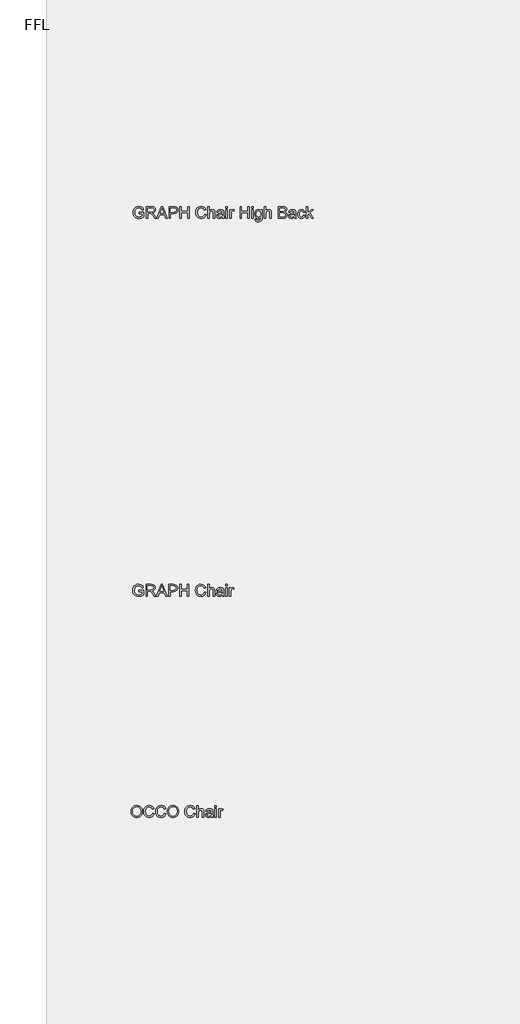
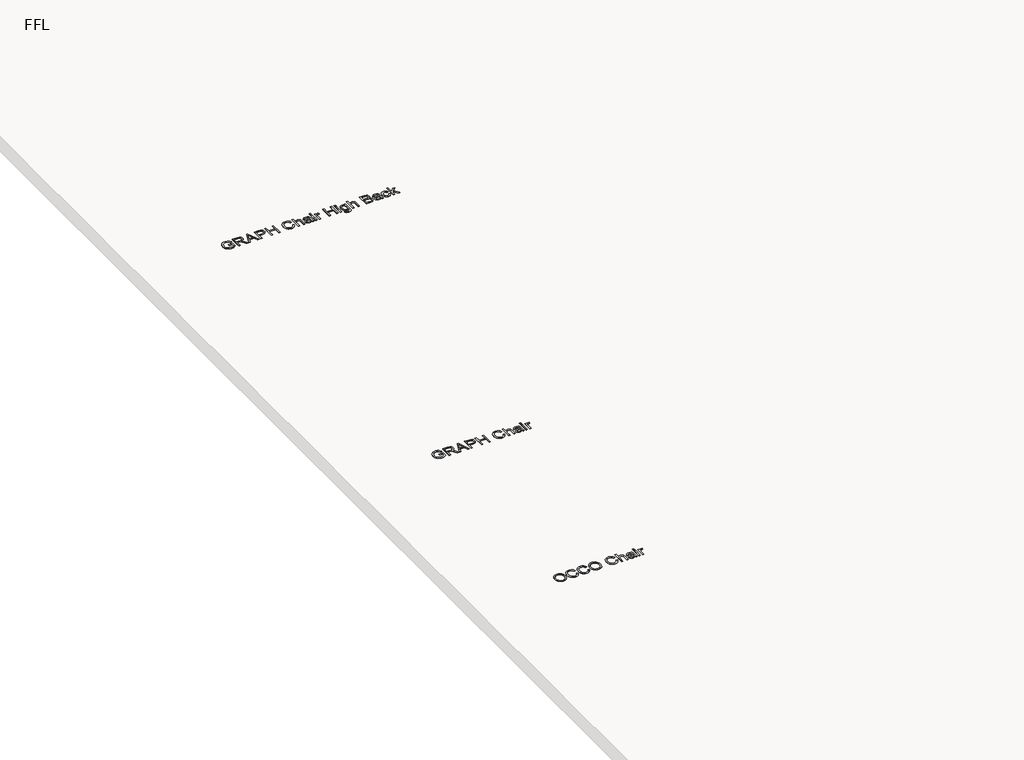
# One storey, part 4 of 5: 3 proxies.
"""IFC4 building model written with IfcOpenShell, lengths in millimetres."""

from ifc_helpers import new_model, si_unit, origin, origin_with_axes, place, context, project, spatial, polyline, outline, extrude, element, save

model = new_model("IFC4")

# Units and contexts
model_context = context("Model", 3, world=origin())
ifc_project = project(units=[si_unit("LENGTHUNIT", "METRE", prefix="MILLI")], contexts=[model_context])

# Site, building, storey
site = spatial("IfcSite", under=ifc_project)
building = spatial("IfcBuilding", under=site)
storey = spatial("IfcBuildingStorey", under=building, Name="FFL", Elevation=0.0)

# Proxies
placement = place(None, origin())
element("IfcBuildingElementProxy", 1, Name="150mm Arial", ObjectType="150mm Arial", at=placement, inside=storey, context=model_context, shape_type="SweptSolid", body=[
    extrude(outline(polyline([(-19111.0911917, 25809.2034841), (-19111.0911917, 25827.6650226), (-19051.0911917, 25827.6650226), (-19051.0911917, 25772.4606957), (-19080.712586, 25755.0448303), (-19112.0286917, 25749.2034841), (-19132.7393287, 25751.5246981), (-19151.4577783, 25758.4883399), (-19167.0076581, 25769.8510202), (-19178.212586, 25785.3693495), (-19184.9869249, 25803.9841332), (-19187.2450379, 25824.6361764), (-19184.9959393, 25845.4369577), (-19178.2486437, 25864.7864168), (-19167.282598, 25881.0168856), (-19152.3772494, 25892.4606957), (-19134.2222013, 25899.2485563), (-19113.5070571, 25901.5111764), (-19084.6248456, 25896.2647822), (-19073.1089201, 25889.9907438), (-19064.3784513, 25881.6614168), (-19053.2185956, 25857.2323303), (-19070.2378263, 25852.4366572), (-19078.6572975, 25869.5099745), (-19093.0443167, 25879.3537245), (-19113.7955187, 25883.049638), (-19137.431336, 25879.065263), (-19153.5130667, 25868.6085322), (-19163.0142687, 25854.3837726), (-19168.7834994, 25825.393388), (-19167.048223, 25807.7386404), (-19161.8423937, 25793.2118976), (-19153.3237638, 25781.9168255), (-19141.650086, 25773.9570899), (-19127.9887278, 25769.2380394), (-19113.5070571, 25767.6650226), (-19088.2486437, 25772.4066091), (-19069.5527302, 25782.5207918), (-19069.5527302, 25809.2034841), (-19111.0911917, 25809.2034841)])), origin_with_axes(), (0.0, 0.0, 1.0), 5.0),
    extrude(outline(polyline([(-19021.0911917, 25751.5111764), (-19021.0911917, 25899.2034841), (-18957.4493648, 25899.2034841), (-18927.900086, 25895.2191091), (-18918.8045331, 25889.7022822), (-18911.7462398, 25881.1205514), (-18907.2164922, 25870.479025), (-18905.7065763, 25858.7828111), (-18908.2080787, 25844.2335322), (-18915.712586, 25832.1722341), (-18928.4454586, 25823.3290851), (-18946.6320571, 25818.4342534), (-18936.1392687, 25810.5376188), (-18921.1753263, 25791.5352149), (-18896.5479225, 25751.5111764), (-18918.0022494, 25751.5111764), (-18937.2209994, 25782.1241572), (-18951.103211, 25802.3885803), (-18960.8568167, 25811.9618976), (-18969.6368648, 25815.4775226), (-18980.3459994, 25816.1265611), (-19002.6296533, 25816.1265611), (-19002.6296533, 25751.5111764), (-19021.0911917, 25751.5111764)]), holes=[polyline([(-19002.6296533, 25834.5880995), (-18961.3075379, 25834.5880995), (-18940.2318167, 25837.2022822), (-18928.2606629, 25845.5676668), (-18924.1681148, 25858.0977149), (-18926.1197374, 25867.1031236), (-18931.9746052, 25874.3597341), (-18942.048223, 25879.1463928), (-18956.6560956, 25880.7419457), (-19002.6296533, 25880.7419457), (-19002.6296533, 25834.5880995)])]), origin_with_axes(), (0.0, 0.0, 1.0), 5.0),
    extrude(outline(polyline([(-18890.5984033, 25751.5111764), (-18831.6440763, 25899.2034841), (-18815.9229225, 25899.2034841), (-18756.9685956, 25751.5111764), (-18776.4758071, 25751.5111764), (-18793.3868648, 25797.6650226), (-18854.2161917, 25797.6650226), (-18871.0911917, 25751.5111764), (-18890.5984033, 25751.5111764)]), holes=[polyline([(-18847.4373456, 25816.1265611), (-18800.1296533, 25816.1265611), (-18813.4349417, 25852.4366572), (-18823.7834994, 25880.7419457), (-18832.978211, 25855.6097341), (-18847.4373456, 25816.1265611)])]), origin_with_axes(), (0.0, 0.0, 1.0), 5.0),
    extrude(outline(polyline([(-18737.2450379, 25751.5111764), (-18737.2450379, 25899.2034841), (-18682.509461, 25899.2034841), (-18660.4421533, 25897.7972341), (-18642.5034513, 25890.8921861), (-18630.8748456, 25876.6133399), (-18626.4758071, 25856.4751188), (-18629.4460595, 25839.0682678), (-18638.3568167, 25824.5640611), (-18655.0199778, 25814.7743976), (-18681.2474417, 25811.5111764), (-18718.7834994, 25811.5111764), (-18718.7834994, 25751.5111764), (-18737.2450379, 25751.5111764)]), holes=[polyline([(-18718.7834994, 25829.9727149), (-18680.165711, 25829.9727149), (-18663.7955187, 25831.6674264), (-18652.978211, 25836.7515611), (-18646.9475619, 25844.9096139), (-18644.9373456, 25855.8260803), (-18649.6789321, 25871.1145418), (-18662.1368648, 25879.4799264), (-18680.5984033, 25880.7419457), (-18718.7834994, 25880.7419457), (-18718.7834994, 25829.9727149)])]), origin_with_axes(), (0.0, 0.0, 1.0), 5.0),
    extrude(outline(polyline([(-18601.0911917, 25751.5111764), (-18601.0911917, 25899.2034841), (-18582.6296533, 25899.2034841), (-18582.6296533, 25839.2034841), (-18504.1681148, 25839.2034841), (-18504.1681148, 25899.2034841), (-18485.7065763, 25899.2034841), (-18485.7065763, 25751.5111764), (-18504.1681148, 25751.5111764), (-18504.1681148, 25820.7419457), (-18582.6296533, 25820.7419457), (-18582.6296533, 25751.5111764), (-18601.0911917, 25751.5111764)])), origin_with_axes(), (0.0, 0.0, 1.0), 5.0),
    extrude(outline(polyline([(-18291.8604225, 25804.0111764), (-18273.398884, 25799.2515611), (-18281.9175138, 25777.7386404), (-18295.2859033, 25762.0219938), (-18312.8459994, 25752.4081115), (-18333.9397494, 25749.2034841), (-18355.3535114, 25751.6283639), (-18372.3592206, 25758.9030034), (-18385.3940763, 25770.7749986), (-18394.8952783, 25786.9919457), (-18400.6960595, 25806.0574505), (-18402.6296533, 25826.4751188), (-18400.4436557, 25848.0105755), (-18393.8856629, 25866.6073303), (-18383.298223, 25881.6749385), (-18369.023884, 25892.6229553), (-18352.0947975, 25899.2891212), (-18333.5431148, 25901.5111764), (-18313.3012278, 25898.6355755), (-18296.5659513, 25890.0087726), (-18283.860122, 25876.1626188), (-18275.7065763, 25857.6289649), (-18294.1681148, 25853.2299264), (-18300.5683552, 25866.6929673), (-18309.3123456, 25875.9282438), (-18320.508259, 25881.2692894), (-18334.2642687, 25883.049638), (-18350.1206388, 25881.0754793), (-18363.1464802, 25875.1530034), (-18373.0307951, 25865.9042053), (-18379.462586, 25853.9510803), (-18384.1681148, 25826.5111764), (-18378.5972013, 25794.7082918), (-18371.4758071, 25782.8317894), (-18361.2534513, 25774.3897822), (-18348.9983432, 25769.3462125), (-18335.7786917, 25767.6650226), (-18320.3685355, 25769.9546861), (-18307.5274898, 25776.8236764), (-18297.8324778, 25788.1998784), (-18291.8604225, 25804.0111764)])), origin_with_axes(), (0.0, 0.0, 1.0), 5.0),
    extrude(outline(polyline([(-18250.321961, 25751.5111764), (-18250.321961, 25899.2034841), (-18231.8604225, 25899.2034841), (-18231.8604225, 25844.9005995), (-18217.4643888, 25857.9354553), (-18199.7330187, 25862.2804072), (-18178.9998456, 25857.5388207), (-18166.415711, 25844.4318495), (-18162.6296533, 25820.1650226), (-18162.6296533, 25751.5111764), (-18181.0911917, 25751.5111764), (-18181.0911917, 25818.2539649), (-18182.5605427, 25829.8104553), (-18186.9685956, 25837.7251188), (-18194.071961, 25842.2954313), (-18203.6272494, 25843.8188688), (-18218.7534513, 25839.7082918), (-18228.8496052, 25828.5664649), (-18231.8604225, 25809.1313688), (-18231.8604225, 25751.5111764), (-18250.321961, 25751.5111764)])), origin_with_axes(), (0.0, 0.0, 1.0), 5.0),
    extrude(outline(polyline([(-18068.0142687, 25765.3573303), (-18085.9169129, 25752.8453111), (-18105.6945571, 25749.2034841), (-18121.1227422, 25751.3939889), (-18132.5034513, 25757.9655034), (-18139.5211797, 25767.9444697), (-18141.8604225, 25780.3573303), (-18138.3267687, 25794.9606957), (-18129.0419129, 25805.5616572), (-18116.1152302, 25811.6193495), (-18100.1416725, 25814.3957918), (-18068.1224417, 25820.7419457), (-18068.0142687, 25824.8525226), (-18069.2853023, 25833.0917053), (-18073.0984033, 25838.4823303), (-18081.6260475, 25842.4847341), (-18093.5070571, 25843.8188688), (-18112.1849417, 25840.2671861), (-18121.0911917, 25827.6650226), (-18139.5527302, 25829.9727149), (-18131.5659513, 25848.0015611), (-18115.4842206, 25858.5664649), (-18091.1272494, 25862.2804072), (-18068.7534513, 25858.9991572), (-18056.1152302, 25850.7599745), (-18050.4541725, 25838.2299264), (-18049.5527302, 25822.0760803), (-18049.5527302, 25799.1073303), (-18048.6152302, 25767.034013), (-18044.9373456, 25751.5111764), (-18063.398884, 25751.5111764), (-18068.0142687, 25765.3573303)]), holes=[polyline([(-18068.0142687, 25802.2804072), (-18097.7979225, 25796.6193495), (-18113.681336, 25793.6265611), (-18120.8748456, 25788.7587726), (-18123.398884, 25781.6554072), (-18117.900086, 25771.6674264), (-18101.7642687, 25767.6650226), (-18083.086384, 25772.0820899), (-18071.0431148, 25782.7731957), (-18068.1224417, 25797.0520418), (-18068.0142687, 25802.2804072)])]), origin_with_axes(), (0.0, 0.0, 1.0), 5.0),
    extrude(outline(polyline([(-18024.1681148, 25751.5111764), (-18024.1681148, 25859.9727149), (-18005.7065763, 25859.9727149), (-18005.7065763, 25751.5111764), (-18024.1681148, 25751.5111764)])), origin_with_axes(), (0.0, 0.0, 1.0), 5.0),
    extrude(outline(polyline([(-18024.1681148, 25880.7419457), (-18024.1681148, 25899.2034841), (-18005.7065763, 25899.2034841), (-18005.7065763, 25880.7419457), (-18024.1681148, 25880.7419457)])), origin_with_axes(), (0.0, 0.0, 1.0), 5.0),
    extrude(outline(polyline([(-17978.0142687, 25751.5111764), (-17978.0142687, 25859.9727149), (-17961.8604225, 25859.9727149), (-17961.8604225, 25843.9270418), (-17950.3940763, 25858.7106957), (-17938.8556148, 25862.2804072), (-17920.321961, 25856.5832918), (-17926.4878263, 25840.0328111), (-17939.4685956, 25843.8188688), (-17949.9072975, 25840.1770418), (-17956.5599417, 25830.080888), (-17959.5527302, 25808.518388), (-17959.5527302, 25751.5111764), (-17978.0142687, 25751.5111764)])), origin_with_axes(), (0.0, 0.0, 1.0), 5.0),
])
element("IfcBuildingElementProxy", 2, Name="150mm Arial", ObjectType="150mm Arial", at=placement, inside=storey, context=model_context, shape_type="SweptSolid", body=[
    extrude(outline(polyline([(-19107.2817262, 30537.9270047), (-19107.2817262, 30556.3885431), (-19047.2817262, 30556.3885431), (-19047.2817262, 30501.1842162), (-19076.9031204, 30483.7683508), (-19108.2192262, 30477.9270047), (-19128.9298632, 30480.2482186), (-19147.6483127, 30487.2118604), (-19163.1981925, 30498.5745407), (-19174.4031204, 30514.09287), (-19181.1774594, 30532.7076537), (-19183.4355724, 30553.359697), (-19181.1864738, 30574.1604782), (-19174.4391781, 30593.5099373), (-19163.4731325, 30609.7404061), (-19148.5677839, 30621.1842162), (-19130.4127358, 30627.9720768), (-19109.6975916, 30630.234697), (-19080.81538, 30624.9883027), (-19069.2994546, 30618.7142643), (-19060.5689858, 30610.3849373), (-19049.40913, 30585.9558508), (-19066.4283608, 30581.1601777), (-19074.847832, 30598.233495), (-19089.2348512, 30608.077245), (-19109.9860531, 30611.7731585), (-19133.6218704, 30607.7887835), (-19149.7036012, 30597.3320527), (-19159.2048031, 30583.1072931), (-19164.9740339, 30554.1169085), (-19163.2387575, 30536.4621609), (-19158.0329281, 30521.9354181), (-19149.5142983, 30510.640346), (-19137.8406204, 30502.6806104), (-19124.1792623, 30497.9615599), (-19109.6975916, 30496.3885431), (-19084.4391781, 30501.1301297), (-19065.7432647, 30511.2443123), (-19065.7432647, 30537.9270047), (-19107.2817262, 30537.9270047)])), origin_with_axes(), (0.0, 0.0, 1.0), 5.0),
    extrude(outline(polyline([(-19017.2817262, 30480.234697), (-19017.2817262, 30627.9270047), (-18953.6398993, 30627.9270047), (-18924.0906204, 30623.9426297), (-18914.9950675, 30618.4258027), (-18907.9367743, 30609.844072), (-18903.4070267, 30599.2025455), (-18901.8971108, 30587.5063316), (-18904.3986132, 30572.9570527), (-18911.9031204, 30560.8957547), (-18924.635993, 30552.0526056), (-18942.8225916, 30547.1577739), (-18932.3298031, 30539.2611393), (-18917.3658608, 30520.2587354), (-18892.738457, 30480.234697), (-18914.1927839, 30480.234697), (-18933.4115339, 30510.8476777), (-18947.2937454, 30531.1121008), (-18957.0473512, 30540.6854181), (-18965.8273993, 30544.2010431), (-18976.5365339, 30544.8500816), (-18998.8201877, 30544.8500816), (-18998.8201877, 30480.234697), (-19017.2817262, 30480.234697)]), holes=[polyline([(-18998.8201877, 30563.31162), (-18957.4980724, 30563.31162), (-18936.4223512, 30565.9258027), (-18924.4511974, 30574.2911873), (-18920.3586493, 30586.8212354), (-18922.3102719, 30595.8266441), (-18928.1651397, 30603.0832547), (-18938.2387575, 30607.8699133), (-18952.84663, 30609.4654662), (-18998.8201877, 30609.4654662), (-18998.8201877, 30563.31162)])]), origin_with_axes(), (0.0, 0.0, 1.0), 5.0),
    extrude(outline(polyline([(-18886.7889377, 30480.234697), (-18827.8346108, 30627.9270047), (-18812.113457, 30627.9270047), (-18753.15913, 30480.234697), (-18772.6663416, 30480.234697), (-18789.5773993, 30526.3885431), (-18850.4067262, 30526.3885431), (-18867.2817262, 30480.234697), (-18886.7889377, 30480.234697)]), holes=[polyline([(-18843.62788, 30544.8500816), (-18796.3201877, 30544.8500816), (-18809.6254762, 30581.1601777), (-18819.9740339, 30609.4654662), (-18829.1687454, 30584.3332547), (-18843.62788, 30544.8500816)])]), origin_with_axes(), (0.0, 0.0, 1.0), 5.0),
    extrude(outline(polyline([(-18733.4355724, 30480.234697), (-18733.4355724, 30627.9270047), (-18678.6999954, 30627.9270047), (-18656.6326877, 30626.5207547), (-18638.6939858, 30619.6157066), (-18627.06538, 30605.3368604), (-18622.6663416, 30585.1986393), (-18625.636594, 30567.7917883), (-18634.5473512, 30553.2875816), (-18651.2105123, 30543.4979181), (-18677.4379762, 30540.234697), (-18714.9740339, 30540.234697), (-18714.9740339, 30480.234697), (-18733.4355724, 30480.234697)]), holes=[polyline([(-18714.9740339, 30558.6962354), (-18676.3562454, 30558.6962354), (-18659.9860531, 30560.390947), (-18649.1687454, 30565.4750816), (-18643.1380964, 30573.6331345), (-18641.12788, 30584.5496008), (-18645.8694666, 30599.8380623), (-18658.3273993, 30608.203447), (-18676.7889377, 30609.4654662), (-18714.9740339, 30609.4654662), (-18714.9740339, 30558.6962354)])]), origin_with_axes(), (0.0, 0.0, 1.0), 5.0),
    extrude(outline(polyline([(-18597.2817262, 30480.234697), (-18597.2817262, 30627.9270047), (-18578.8201877, 30627.9270047), (-18578.8201877, 30567.9270047), (-18500.3586493, 30567.9270047), (-18500.3586493, 30627.9270047), (-18481.8971108, 30627.9270047), (-18481.8971108, 30480.234697), (-18500.3586493, 30480.234697), (-18500.3586493, 30549.4654662), (-18578.8201877, 30549.4654662), (-18578.8201877, 30480.234697), (-18597.2817262, 30480.234697)])), origin_with_axes(), (0.0, 0.0, 1.0), 5.0),
    extrude(outline(polyline([(-18288.050957, 30532.734697), (-18269.5894185, 30527.9750816), (-18278.1080483, 30506.4621609), (-18291.4764377, 30490.7455143), (-18309.0365339, 30481.1316321), (-18330.1302839, 30477.9270047), (-18351.5440459, 30480.3518845), (-18368.549755, 30487.6265239), (-18381.5846108, 30499.4985191), (-18391.0858127, 30515.7154662), (-18396.886594, 30534.780971), (-18398.8201877, 30555.1986393), (-18396.6341901, 30576.734096), (-18390.0761974, 30595.3308508), (-18379.4887575, 30610.398459), (-18365.2144185, 30621.3464758), (-18348.285332, 30628.0126417), (-18329.7336493, 30630.234697), (-18309.4917623, 30627.359096), (-18292.7564858, 30618.7322931), (-18280.0506565, 30604.8861393), (-18271.8971108, 30586.3524854), (-18290.3586493, 30581.953447), (-18296.7588897, 30595.4164878), (-18305.50288, 30604.6517643), (-18316.6987935, 30609.9928099), (-18330.4548031, 30611.7731585), (-18346.3111733, 30609.7989998), (-18359.3370147, 30603.8765239), (-18369.2213296, 30594.6277258), (-18375.6531204, 30582.6746008), (-18380.3586493, 30555.234697), (-18374.7877358, 30523.4318123), (-18367.6663416, 30511.5553099), (-18357.4439858, 30503.1133027), (-18345.1888776, 30498.069733), (-18331.9692262, 30496.3885431), (-18316.55907, 30498.6782066), (-18303.7180243, 30505.547197), (-18294.0230123, 30516.9233989), (-18288.050957, 30532.734697)])), origin_with_axes(), (0.0, 0.0, 1.0), 5.0),
    extrude(outline(polyline([(-18246.5124954, 30480.234697), (-18246.5124954, 30627.9270047), (-18228.050957, 30627.9270047), (-18228.050957, 30573.62412), (-18213.6549233, 30586.6589758), (-18195.9235531, 30591.0039277), (-18175.19038, 30586.2623412), (-18162.6062454, 30573.15537), (-18158.8201877, 30548.8885431), (-18158.8201877, 30480.234697), (-18177.2817262, 30480.234697), (-18177.2817262, 30546.9774854), (-18178.7510772, 30558.5339758), (-18183.15913, 30566.4486393), (-18190.2624954, 30571.0189518), (-18199.8177839, 30572.5423893), (-18214.9439858, 30568.4318123), (-18225.0401397, 30557.2899854), (-18228.050957, 30537.8548893), (-18228.050957, 30480.234697), (-18246.5124954, 30480.234697)])), origin_with_axes(), (0.0, 0.0, 1.0), 5.0),
    extrude(outline(polyline([(-18064.2048031, 30494.0808508), (-18082.1074474, 30481.5688316), (-18101.8850916, 30477.9270047), (-18117.3132767, 30480.1175095), (-18128.6939858, 30486.6890239), (-18135.7117142, 30496.6679902), (-18138.050957, 30509.0808508), (-18134.5173031, 30523.6842162), (-18125.2324474, 30534.2851777), (-18112.3057647, 30540.34287), (-18096.332207, 30543.1193123), (-18064.3129762, 30549.4654662), (-18064.2048031, 30553.5760431), (-18065.4758368, 30561.8152258), (-18069.2889377, 30567.2058508), (-18077.816582, 30571.2082547), (-18089.6975916, 30572.5423893), (-18108.3754762, 30568.9907066), (-18117.2817262, 30556.3885431), (-18135.7432647, 30558.6962354), (-18127.7564858, 30576.7250816), (-18111.674755, 30587.2899854), (-18087.3177839, 30591.0039277), (-18064.9439858, 30587.7226777), (-18052.3057647, 30579.483495), (-18046.644707, 30566.953447), (-18045.7432647, 30550.7996008), (-18045.7432647, 30527.8308508), (-18044.8057647, 30495.7575335), (-18041.12788, 30480.234697), (-18059.5894185, 30480.234697), (-18064.2048031, 30494.0808508)]), holes=[polyline([(-18064.2048031, 30531.0039277), (-18093.988457, 30525.34287), (-18109.8718704, 30522.3500816), (-18117.06538, 30517.4822931), (-18119.5894185, 30510.3789277), (-18114.0906204, 30500.390947), (-18097.9548031, 30496.3885431), (-18079.2769185, 30500.8056104), (-18067.2336493, 30511.4967162), (-18064.3129762, 30525.7755623), (-18064.2048031, 30531.0039277)])]), origin_with_axes(), (0.0, 0.0, 1.0), 5.0),
    extrude(outline(polyline([(-18020.3586493, 30480.234697), (-18020.3586493, 30588.6962354), (-18001.8971108, 30588.6962354), (-18001.8971108, 30480.234697), (-18020.3586493, 30480.234697)])), origin_with_axes(), (0.0, 0.0, 1.0), 5.0),
    extrude(outline(polyline([(-18020.3586493, 30609.4654662), (-18020.3586493, 30627.9270047), (-18001.8971108, 30627.9270047), (-18001.8971108, 30609.4654662), (-18020.3586493, 30609.4654662)])), origin_with_axes(), (0.0, 0.0, 1.0), 5.0),
    extrude(outline(polyline([(-17974.2048031, 30480.234697), (-17974.2048031, 30588.6962354), (-17958.050957, 30588.6962354), (-17958.050957, 30572.6505623), (-17946.5846108, 30587.4342162), (-17935.0461493, 30591.0039277), (-17916.5124954, 30585.3068123), (-17922.6783608, 30568.7563316), (-17935.65913, 30572.5423893), (-17946.097832, 30568.9005623), (-17952.7504762, 30558.8044085), (-17955.7432647, 30537.2419085), (-17955.7432647, 30480.234697), (-17974.2048031, 30480.234697)])), origin_with_axes(), (0.0, 0.0, 1.0), 5.0),
    extrude(outline(polyline([(-17844.9740339, 30480.234697), (-17844.9740339, 30627.9270047), (-17826.5124954, 30627.9270047), (-17826.5124954, 30567.9270047), (-17748.050957, 30567.9270047), (-17748.050957, 30627.9270047), (-17729.5894185, 30627.9270047), (-17729.5894185, 30480.234697), (-17748.050957, 30480.234697), (-17748.050957, 30549.4654662), (-17826.5124954, 30549.4654662), (-17826.5124954, 30480.234697), (-17844.9740339, 30480.234697)])), origin_with_axes(), (0.0, 0.0, 1.0), 5.0),
    extrude(outline(polyline([(-17699.5894185, 30609.4654662), (-17699.5894185, 30627.9270047), (-17681.12788, 30627.9270047), (-17681.12788, 30609.4654662), (-17699.5894185, 30609.4654662)])), origin_with_axes(), (0.0, 0.0, 1.0), 5.0),
    extrude(outline(polyline([(-17699.5894185, 30480.234697), (-17699.5894185, 30588.6962354), (-17681.12788, 30588.6962354), (-17681.12788, 30480.234697), (-17699.5894185, 30480.234697)])), origin_with_axes(), (0.0, 0.0, 1.0), 5.0),
    extrude(outline(polyline([(-17658.050957, 30471.0039277), (-17639.5894185, 30468.6962354), (-17633.6038416, 30458.9606585), (-17615.6831685, 30454.8500816), (-17596.7889377, 30459.5015239), (-17587.7745147, 30472.5544085), (-17586.5124954, 30494.0808508), (-17599.5112935, 30483.6962354), (-17615.3586493, 30480.234697), (-17634.3926036, 30484.2641441), (-17648.5858127, 30496.3524854), (-17657.4154401, 30514.0748412), (-17660.3586493, 30535.0063316), (-17655.0761974, 30563.6181104), (-17648.612856, 30575.2331946), (-17639.7877358, 30583.8645047), (-17628.90282, 30589.219072), (-17616.2600916, 30591.0039277), (-17599.7907406, 30586.9654662), (-17586.5124954, 30574.8500816), (-17586.5124954, 30588.6962354), (-17568.050957, 30588.6962354), (-17568.050957, 30495.0544085), (-17569.3129762, 30473.4333148), (-17573.0990339, 30459.1950335), (-17579.620969, 30449.7524253), (-17589.0906204, 30442.5183508), (-17601.3006565, 30437.920995), (-17616.0437454, 30436.3885431), (-17633.2207286, 30438.5474974), (-17646.7468704, 30445.0243604), (-17655.4232526, 30455.8371609), (-17658.050957, 30471.0039277)]), holes=[polyline([(-17641.8971108, 30536.2683508), (-17639.9274594, 30519.3347571), (-17634.018505, 30507.6926297), (-17625.1347911, 30500.945334), (-17614.2408608, 30498.6962354), (-17603.4280603, 30500.9318123), (-17594.4992743, 30507.6385431), (-17588.5091901, 30519.1319325), (-17586.5124954, 30535.7274854), (-17588.5677839, 30551.7325936), (-17594.7336493, 30563.2575335), (-17603.7931445, 30570.2211753), (-17614.5293224, 30572.5423893), (-17625.0716901, 30570.257233), (-17633.910332, 30563.4017643), (-17639.9004161, 30552.0480984), (-17641.8971108, 30536.2683508)])]), origin_with_axes(), (0.0, 0.0, 1.0), 5.0),
    extrude(outline(polyline([(-17540.3586493, 30480.234697), (-17540.3586493, 30627.9270047), (-17521.8971108, 30627.9270047), (-17521.8971108, 30573.62412), (-17507.5010772, 30586.6589758), (-17489.769707, 30591.0039277), (-17469.0365339, 30586.2623412), (-17456.4523993, 30573.15537), (-17452.6663416, 30548.8885431), (-17452.6663416, 30480.234697), (-17471.12788, 30480.234697), (-17471.12788, 30546.9774854), (-17472.597231, 30558.5339758), (-17477.0052839, 30566.4486393), (-17484.1086493, 30571.0189518), (-17493.6639377, 30572.5423893), (-17508.7901397, 30568.4318123), (-17518.8862935, 30557.2899854), (-17521.8971108, 30537.8548893), (-17521.8971108, 30480.234697), (-17540.3586493, 30480.234697)])), origin_with_axes(), (0.0, 0.0, 1.0), 5.0),
    extrude(outline(polyline([(-17367.2817262, 30480.234697), (-17367.2817262, 30627.9270047), (-17310.9235531, 30627.9270047), (-17283.3213897, 30623.5820527), (-17274.0455483, 30618.069733), (-17267.0233127, 30610.2226777), (-17261.12788, 30591.328447), (-17266.0858127, 30574.0748412), (-17281.0677839, 30561.0039277), (-17270.6065459, 30555.5411873), (-17262.8766781, 30547.2298893), (-17258.1035411, 30536.6199133), (-17256.5124954, 30524.2611393), (-17260.8574474, 30504.4113797), (-17271.6206685, 30490.2767643), (-17287.6843704, 30482.7767643), (-17311.3562454, 30480.234697), (-17367.2817262, 30480.234697)]), holes=[polyline([(-17348.8201877, 30498.6962354), (-17310.9596108, 30498.6962354), (-17297.2576877, 30499.4173893), (-17285.6651397, 30503.437822), (-17277.9848512, 30511.640947), (-17274.9740339, 30524.0808508), (-17278.5076877, 30538.4318123), (-17289.956005, 30546.9955143), (-17312.7624954, 30549.4654662), (-17348.8201877, 30549.4654662), (-17348.8201877, 30498.6962354)]), polyline([(-17348.8201877, 30567.9270047), (-17315.1062454, 30567.9270047), (-17295.4187454, 30569.5135431), (-17283.5737935, 30576.3464758), (-17279.5894185, 30588.3717162), (-17283.3033608, 30600.4149854), (-17293.94038, 30607.5363797), (-17317.6663416, 30609.4654662), (-17348.8201877, 30609.4654662), (-17348.8201877, 30567.9270047)])]), origin_with_axes(), (0.0, 0.0, 1.0), 5.0),
    extrude(outline(polyline([(-17164.2048031, 30494.0808508), (-17182.1074474, 30481.5688316), (-17201.8850916, 30477.9270047), (-17217.3132767, 30480.1175095), (-17228.6939858, 30486.6890239), (-17235.7117142, 30496.6679902), (-17238.050957, 30509.0808508), (-17234.5173031, 30523.6842162), (-17225.2324474, 30534.2851777), (-17212.3057647, 30540.34287), (-17196.332207, 30543.1193123), (-17164.3129762, 30549.4654662), (-17164.2048031, 30553.5760431), (-17165.4758368, 30561.8152258), (-17169.2889377, 30567.2058508), (-17177.816582, 30571.2082547), (-17189.6975916, 30572.5423893), (-17208.3754762, 30568.9907066), (-17217.2817262, 30556.3885431), (-17235.7432647, 30558.6962354), (-17227.7564858, 30576.7250816), (-17211.674755, 30587.2899854), (-17187.3177839, 30591.0039277), (-17164.9439858, 30587.7226777), (-17152.3057647, 30579.483495), (-17146.644707, 30566.953447), (-17145.7432647, 30550.7996008), (-17145.7432647, 30527.8308508), (-17144.8057647, 30495.7575335), (-17141.12788, 30480.234697), (-17159.5894185, 30480.234697), (-17164.2048031, 30494.0808508)]), holes=[polyline([(-17164.2048031, 30531.0039277), (-17193.988457, 30525.34287), (-17209.8718704, 30522.3500816), (-17217.06538, 30517.4822931), (-17219.5894185, 30510.3789277), (-17214.0906204, 30500.390947), (-17197.9548031, 30496.3885431), (-17179.2769185, 30500.8056104), (-17167.2336493, 30511.4967162), (-17164.3129762, 30525.7755623), (-17164.2048031, 30531.0039277)])]), origin_with_axes(), (0.0, 0.0, 1.0), 5.0),
    extrude(outline(polyline([(-17051.12788, 30519.4654662), (-17032.6663416, 30517.1577739), (-17037.8135772, 30500.7380023), (-17047.4860531, 30488.3296489), (-17060.7733127, 30480.5276657), (-17076.7648993, 30477.9270047), (-17096.40282, 30481.5553099), (-17111.7588897, 30492.4402258), (-17121.6702478, 30510.1039878), (-17124.9740339, 30534.0688316), (-17119.331005, 30564.7358989), (-17112.2096108, 30576.2337955), (-17102.1314858, 30584.4414277), (-17090.074695, 30589.3633027), (-17077.0173031, 30591.0039277), (-17061.417844, 30588.750322), (-17048.9463897, 30581.9895047), (-17039.9995748, 30571.0820527), (-17034.9740339, 30556.3885431), (-17053.4355724, 30554.0808508), (-17061.9992743, 30567.9089758), (-17076.8730724, 30572.5423893), (-17088.8036613, 30570.2617402), (-17098.2733127, 30563.4197931), (-17104.4526998, 30551.6469566), (-17106.5124954, 30534.5736393), (-17104.4977719, 30517.2704542), (-17098.4536012, 30505.4570527), (-17089.1552238, 30498.6556705), (-17077.37788, 30496.3885431), (-17067.8180844, 30497.8038075), (-17059.9800435, 30502.0496008), (-17054.2784209, 30509.234096), (-17051.12788, 30519.4654662)])), origin_with_axes(), (0.0, 0.0, 1.0), 5.0),
    extrude(outline(polyline([(-17016.5124954, 30480.234697), (-17016.5124954, 30627.9270047), (-16998.050957, 30627.9270047), (-16998.050957, 30548.5640239), (-16956.6567262, 30588.6962354), (-16931.12788, 30588.6962354), (-16973.0269185, 30548.0592162), (-16928.8201877, 30480.234697), (-16950.3826877, 30480.234697), (-16986.2600916, 30535.2226777), (-16998.050957, 30523.7923893), (-16998.050957, 30480.234697), (-17016.5124954, 30480.234697)])), origin_with_axes(), (0.0, 0.0, 1.0), 5.0),
])
element("IfcBuildingElementProxy", 3, Name="150mm Arial", ObjectType="150mm Arial", at=placement, inside=storey, context=model_context, shape_type="SweptSolid", body=[
    extrude(outline(polyline([(-19208.4052967, 23056.6112457), (-19203.4834217, 23089.2705005), (-19188.7177967, 23113.9790341), (-19166.1727246, 23129.5289139), (-19137.9125083, 23134.7122072), (-19118.5405131, 23132.278313), (-19101.1697198, 23124.9766303), (-19086.7466429, 23113.3209812), (-19076.2177967, 23097.825188), (-19069.7814986, 23079.2374476), (-19067.6360659, 23058.3059572), (-19069.8941789, 23037.0950197), (-19076.6685179, 23018.245861), (-19087.5849842, 23002.7230245), (-19102.2694794, 22991.4910534), (-19119.4915347, 22984.6761495), (-19138.0206813, 22982.4045149), (-19157.6901525, 22984.9150317), (-19175.1601044, 22992.4465822), (-19189.5471236, 23004.3185774), (-19199.9677967, 23019.8504284), (-19206.2959217, 23037.7215221), (-19208.4052967, 23056.6112457)]), holes=[polyline([(-19189.9437583, 23056.4309572), (-19186.252352, 23033.3269909), (-19175.1781333, 23015.7218226), (-19158.533001, 23004.5799957), (-19138.1288544, 23000.8660534), (-19117.4272318, 23004.6160534), (-19100.7550563, 23015.8660534), (-19089.7619674, 23034.012087), (-19086.0976044, 23058.450188), (-19087.666114, 23074.793337), (-19092.3716429, 23088.918938), (-19100.0924962, 23100.4709211), (-19110.7069794, 23109.0932168), (-19123.5119674, 23114.4613058), (-19137.8043352, 23116.2506687), (-19157.6631092, 23112.8026519), (-19174.5471236, 23102.4586014), (-19186.0945996, 23084.0556567), (-19189.9437583, 23056.4309572)])]), origin_with_axes(), (0.0, 0.0, 1.0), 5.0),
    extrude(outline(polyline([(-18938.4052967, 23037.2122072), (-18919.9437583, 23032.4525918), (-18928.4623881, 23010.9396711), (-18941.8307775, 22995.2230245), (-18959.3908736, 22985.6091423), (-18980.4846236, 22982.4045149), (-19001.8983857, 22984.8293947), (-19018.9040948, 22992.1040341), (-19031.9389506, 23003.9760293), (-19041.4401525, 23020.1929764), (-19047.2409337, 23039.2584812), (-19049.1745275, 23059.6761495), (-19046.9885299, 23081.2116062), (-19040.4305371, 23099.808361), (-19029.8430972, 23114.8759692), (-19015.5687583, 23125.823986), (-18998.6396717, 23132.4901519), (-18980.087989, 23134.7122072), (-18959.846102, 23131.8366062), (-18943.1108256, 23123.2098034), (-18930.4049962, 23109.3636495), (-18922.2514506, 23090.8299957), (-18940.712989, 23086.4309572), (-18947.1132294, 23099.8939981), (-18955.8572198, 23109.1292745), (-18967.0531333, 23114.4703202), (-18980.8091429, 23116.2506687), (-18996.6655131, 23114.2765101), (-19009.6913544, 23108.3540341), (-19019.5756693, 23099.105236), (-19026.0074602, 23087.152111), (-19030.712989, 23059.7122072), (-19025.1420756, 23027.9093226), (-19018.0206813, 23016.0328202), (-19007.7983256, 23007.590813), (-18995.5432174, 23002.5472433), (-18982.3235659, 23000.8660534), (-18966.9134097, 23003.1557168), (-18954.072364, 23010.0247072), (-18944.377352, 23021.4009091), (-18938.4052967, 23037.2122072)])), origin_with_axes(), (0.0, 0.0, 1.0), 5.0),
    extrude(outline(polyline([(-18790.712989, 23037.2122072), (-18772.2514506, 23032.4525918), (-18780.7700804, 23010.9396711), (-18794.1384698, 22995.2230245), (-18811.6985659, 22985.6091423), (-18832.7923159, 22982.4045149), (-18854.206078, 22984.8293947), (-18871.2117871, 22992.1040341), (-18884.2466429, 23003.9760293), (-18893.7478448, 23020.1929764), (-18899.548626, 23039.2584812), (-18901.4822198, 23059.6761495), (-18899.2962222, 23081.2116062), (-18892.7382294, 23099.808361), (-18882.1507895, 23114.8759692), (-18867.8764506, 23125.823986), (-18850.947364, 23132.4901519), (-18832.3956813, 23134.7122072), (-18812.1537943, 23131.8366062), (-18795.4185179, 23123.2098034), (-18782.7126885, 23109.3636495), (-18774.5591429, 23090.8299957), (-18793.0206813, 23086.4309572), (-18799.4209217, 23099.8939981), (-18808.1649121, 23109.1292745), (-18819.3608256, 23114.4703202), (-18833.1168352, 23116.2506687), (-18848.9732054, 23114.2765101), (-18861.9990467, 23108.3540341), (-18871.8833616, 23099.105236), (-18878.3151525, 23087.152111), (-18883.0206813, 23059.7122072), (-18877.4497679, 23027.9093226), (-18870.3283736, 23016.0328202), (-18860.1060179, 23007.590813), (-18847.8509097, 23002.5472433), (-18834.6312583, 23000.8660534), (-18819.221102, 23003.1557168), (-18806.3800563, 23010.0247072), (-18796.6850443, 23021.4009091), (-18790.712989, 23037.2122072)])), origin_with_axes(), (0.0, 0.0, 1.0), 5.0),
    extrude(outline(polyline([(-18753.7899121, 23056.6112457), (-18748.8680371, 23089.2705005), (-18734.1024121, 23113.9790341), (-18711.55734, 23129.5289139), (-18683.2971236, 23134.7122072), (-18663.9251284, 23132.278313), (-18646.5543352, 23124.9766303), (-18632.1312583, 23113.3209812), (-18621.6024121, 23097.825188), (-18615.166114, 23079.2374476), (-18613.0206813, 23058.3059572), (-18615.2787943, 23037.0950197), (-18622.0531333, 23018.245861), (-18632.9695996, 23002.7230245), (-18647.6540948, 22991.4910534), (-18664.8761501, 22984.6761495), (-18683.4052967, 22982.4045149), (-18703.0747679, 22984.9150317), (-18720.5447198, 22992.4465822), (-18734.931739, 23004.3185774), (-18745.3524121, 23019.8504284), (-18751.6805371, 23037.7215221), (-18753.7899121, 23056.6112457)]), holes=[polyline([(-18735.3283736, 23056.4309572), (-18731.6369674, 23033.3269909), (-18720.5627486, 23015.7218226), (-18703.9176164, 23004.5799957), (-18683.5134698, 23000.8660534), (-18662.8118472, 23004.6160534), (-18646.1396717, 23015.8660534), (-18635.1465828, 23034.012087), (-18631.4822198, 23058.450188), (-18633.0507294, 23074.793337), (-18637.7562583, 23088.918938), (-18645.4771116, 23100.4709211), (-18656.0915948, 23109.0932168), (-18668.8965828, 23114.4613058), (-18683.1889506, 23116.2506687), (-18703.0477246, 23112.8026519), (-18719.931739, 23102.4586014), (-18731.479215, 23084.0556567), (-18735.3283736, 23056.4309572)])]), origin_with_axes(), (0.0, 0.0, 1.0), 5.0),
    extrude(outline(polyline([(-18426.0976044, 23037.2122072), (-18407.6360659, 23032.4525918), (-18416.1546958, 23010.9396711), (-18429.5230852, 22995.2230245), (-18447.0831813, 22985.6091423), (-18468.1769313, 22982.4045149), (-18489.5906934, 22984.8293947), (-18506.5964025, 22992.1040341), (-18519.6312583, 23003.9760293), (-18529.1324602, 23020.1929764), (-18534.9332414, 23039.2584812), (-18536.8668352, 23059.6761495), (-18534.6808376, 23081.2116062), (-18528.1228448, 23099.808361), (-18517.5354049, 23114.8759692), (-18503.2610659, 23125.823986), (-18486.3319794, 23132.4901519), (-18467.7802967, 23134.7122072), (-18447.5384097, 23131.8366062), (-18430.8031333, 23123.2098034), (-18418.0973039, 23109.3636495), (-18409.9437583, 23090.8299957), (-18428.4052967, 23086.4309572), (-18434.8055371, 23099.8939981), (-18443.5495275, 23109.1292745), (-18454.7454409, 23114.4703202), (-18468.5014506, 23116.2506687), (-18484.3578208, 23114.2765101), (-18497.3836621, 23108.3540341), (-18507.267977, 23099.105236), (-18513.6997679, 23087.152111), (-18518.4052967, 23059.7122072), (-18512.8343833, 23027.9093226), (-18505.712989, 23016.0328202), (-18495.4906333, 23007.590813), (-18483.2355251, 23002.5472433), (-18470.0158736, 23000.8660534), (-18454.6057174, 23003.1557168), (-18441.7646717, 23010.0247072), (-18432.0696597, 23021.4009091), (-18426.0976044, 23037.2122072)])), origin_with_axes(), (0.0, 0.0, 1.0), 5.0),
    extrude(outline(polyline([(-18384.5591429, 22984.7122072), (-18384.5591429, 23132.4045149), (-18366.0976044, 23132.4045149), (-18366.0976044, 23078.1016303), (-18351.7015708, 23091.136486), (-18333.9702006, 23095.481438), (-18313.2370275, 23090.7398514), (-18300.6528929, 23077.6328803), (-18296.8668352, 23053.3660534), (-18296.8668352, 22984.7122072), (-18315.3283736, 22984.7122072), (-18315.3283736, 23051.4549957), (-18316.7977246, 23063.011486), (-18321.2057775, 23070.9261495), (-18328.3091429, 23075.496462), (-18337.8644313, 23077.0198995), (-18352.9906333, 23072.9093226), (-18363.0867871, 23061.7674957), (-18366.0976044, 23042.3323995), (-18366.0976044, 22984.7122072), (-18384.5591429, 22984.7122072)])), origin_with_axes(), (0.0, 0.0, 1.0), 5.0),
    extrude(outline(polyline([(-18202.2514506, 22998.558361), (-18220.1540948, 22986.0463418), (-18239.931739, 22982.4045149), (-18255.3599241, 22984.5950197), (-18266.7406333, 22991.1665341), (-18273.7583616, 23001.1455005), (-18276.0976044, 23013.558361), (-18272.5639506, 23028.1617264), (-18263.2790948, 23038.762688), (-18250.3524121, 23044.8203803), (-18234.3788544, 23047.5968226), (-18202.3596236, 23053.9429764), (-18202.2514506, 23058.0535534), (-18203.5224842, 23066.292736), (-18207.3355852, 23071.683361), (-18215.8632294, 23075.6857649), (-18227.744239, 23077.0198995), (-18246.4221236, 23073.4682168), (-18255.3283736, 23060.8660534), (-18273.7899121, 23063.1737457), (-18265.8031333, 23081.2025918), (-18249.7214025, 23091.7674957), (-18225.3644313, 23095.481438), (-18202.9906333, 23092.200188), (-18190.3524121, 23083.9610053), (-18184.6913544, 23071.4309572), (-18183.7899121, 23055.277111), (-18183.7899121, 23032.308361), (-18182.8524121, 23000.2350437), (-18179.1745275, 22984.7122072), (-18197.6360659, 22984.7122072), (-18202.2514506, 22998.558361)]), holes=[polyline([(-18202.2514506, 23035.481438), (-18232.0351044, 23029.8203803), (-18247.9185179, 23026.8275918), (-18255.1120275, 23021.9598034), (-18257.6360659, 23014.856438), (-18252.1372679, 23004.8684572), (-18236.0014506, 23000.8660534), (-18217.3235659, 23005.2831207), (-18205.2802967, 23015.9742264), (-18202.3596236, 23030.2530726), (-18202.2514506, 23035.481438)])]), origin_with_axes(), (0.0, 0.0, 1.0), 5.0),
    extrude(outline(polyline([(-18158.4052967, 22984.7122072), (-18158.4052967, 23093.1737457), (-18139.9437583, 23093.1737457), (-18139.9437583, 22984.7122072), (-18158.4052967, 22984.7122072)])), origin_with_axes(), (0.0, 0.0, 1.0), 5.0),
    extrude(outline(polyline([(-18158.4052967, 23113.9429764), (-18158.4052967, 23132.4045149), (-18139.9437583, 23132.4045149), (-18139.9437583, 23113.9429764), (-18158.4052967, 23113.9429764)])), origin_with_axes(), (0.0, 0.0, 1.0), 5.0),
    extrude(outline(polyline([(-18112.2514506, 22984.7122072), (-18112.2514506, 23093.1737457), (-18096.0976044, 23093.1737457), (-18096.0976044, 23077.1280726), (-18084.6312583, 23091.9117264), (-18073.0927967, 23095.481438), (-18054.5591429, 23089.7843226), (-18060.7250083, 23073.2338418), (-18073.7057775, 23077.0198995), (-18084.1444794, 23073.3780726), (-18090.7971236, 23063.2819187), (-18093.7899121, 23041.7194187), (-18093.7899121, 22984.7122072), (-18112.2514506, 22984.7122072)])), origin_with_axes(), (0.0, 0.0, 1.0), 5.0),
])

save(model, "model.ifc")
